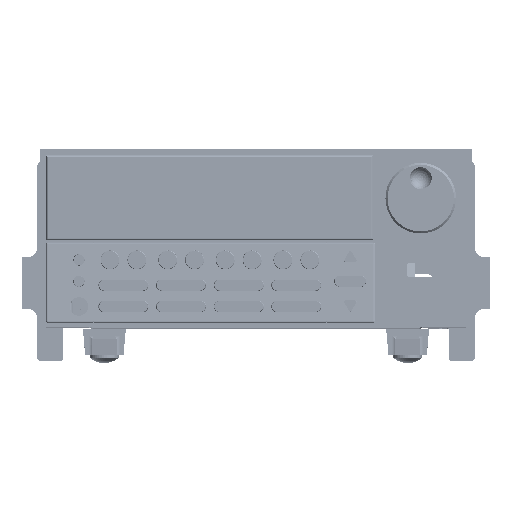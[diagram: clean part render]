
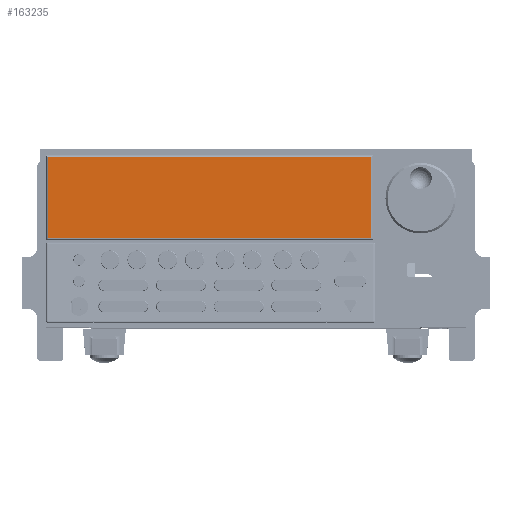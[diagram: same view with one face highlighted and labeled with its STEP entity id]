
A CAD part, top view. The second image highlights one B-rep face of the part: STEP entity #163235.
In plain terms, the highlighted planar face has unit normal (0, 0, 1).
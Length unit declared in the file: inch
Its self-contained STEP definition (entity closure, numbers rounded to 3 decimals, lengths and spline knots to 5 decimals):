
#163034=DIRECTION('',(1.,0.,0.));
#163035=VECTOR('',#163034,6.298);
#163036=CARTESIAN_POINT('',(0.035,0.035,0.093));
#163037=LINE('',#163036,#163035);
#163051=DIRECTION('',(0.,-1.,0.));
#163052=VECTOR('',#163051,1.578);
#163053=CARTESIAN_POINT('',(0.035,1.613,0.093));
#163054=LINE('',#163053,#163052);
#163068=DIRECTION('',(-1.,0.,0.));
#163069=VECTOR('',#163068,6.298);
#163070=CARTESIAN_POINT('',(6.333,1.613,0.093));
#163071=LINE('',#163070,#163069);
#163085=DIRECTION('',(0.,1.,0.));
#163086=VECTOR('',#163085,1.578);
#163087=CARTESIAN_POINT('',(6.333,0.035,0.093));
#163088=LINE('',#163087,#163086);
#163122=CARTESIAN_POINT('',(0.035,0.035,0.093));
#163123=CARTESIAN_POINT('',(6.333,0.035,0.093));
#163124=VERTEX_POINT('',#163122);
#163125=VERTEX_POINT('',#163123);
#163126=CARTESIAN_POINT('',(0.035,1.613,0.093));
#163127=VERTEX_POINT('',#163126);
#163128=CARTESIAN_POINT('',(6.333,1.613,0.093));
#163129=VERTEX_POINT('',#163128);
#163221=CARTESIAN_POINT('',(0.,0.,0.093));
#163222=DIRECTION('',(0.,0.,1.));
#163223=DIRECTION('',(1.,0.,0.));
#163224=AXIS2_PLACEMENT_3D('',#163221,#163222,#163223);
#163225=PLANE('',#163224);
#163227=ORIENTED_EDGE('',*,*,#163226,.F.);
#163229=ORIENTED_EDGE('',*,*,#163228,.F.);
#163231=ORIENTED_EDGE('',*,*,#163230,.F.);
#163232=ORIENTED_EDGE('',*,*,#163211,.F.);
#163233=EDGE_LOOP('',(#163227,#163229,#163231,#163232));
#163234=FACE_OUTER_BOUND('',#163233,.F.);
#163235=ADVANCED_FACE('',(#163234),#163225,.T.);
#163211=EDGE_CURVE('',#163124,#163125,#163037,.T.);
#163226=EDGE_CURVE('',#163127,#163124,#163054,.T.);
#163228=EDGE_CURVE('',#163129,#163127,#163071,.T.);
#163230=EDGE_CURVE('',#163125,#163129,#163088,.T.);
